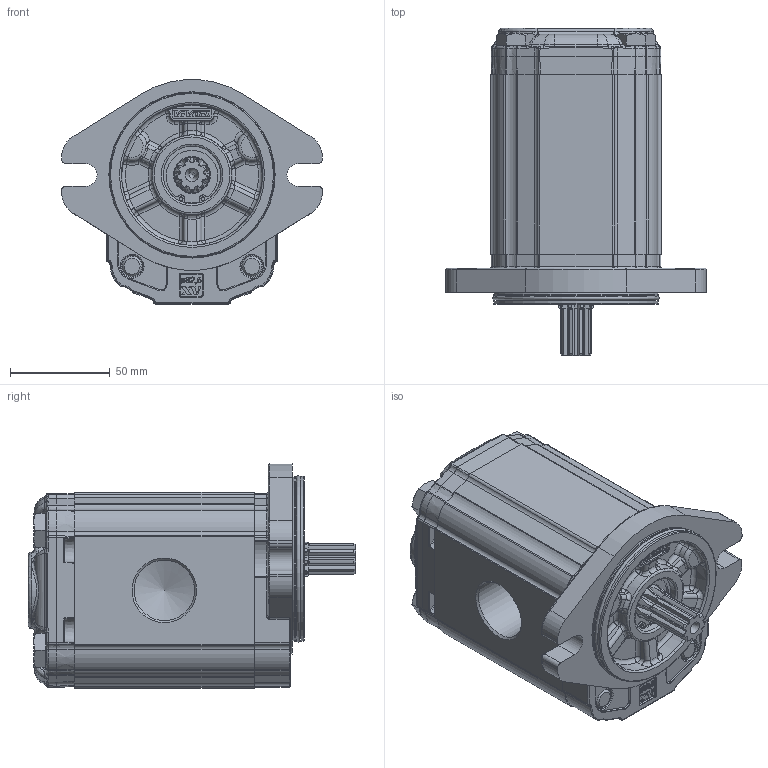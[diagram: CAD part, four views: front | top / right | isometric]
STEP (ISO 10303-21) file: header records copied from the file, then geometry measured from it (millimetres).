
FILE_DESCRIPTION(/* description */ ('Unknown'),/* implementation_level */ '2;1');
FILE_NAME(/* name */ 'X2M5931IDDF',/* time_stamp */ '2021-04-26T12:03:55+02:00',/* author */ ('Unknown'),/* organization */ ('Unknown'),/* preprocessor_version */ 'ST-DEVELOPER v16.7',/* originating_system */ 'Solid Edge',/* authorisation */ 'Unknown');
FILE_SCHEMA (('CONFIG_CONTROL_DESIGN','AUTOMOTIVE_DESIGN {1 0 10303 214 3 1 1}'));
Products named in the file (5): X2M5931IDDF; X2M31; 2I; X2DDH90; XM219-F
Assembly tree (4 placements, depth 2):
  X2M5931IDDF
    X2M31
    2I
    X2DDH90
    XM219-F
Bounding box: 130.38 x 163.7 x 112.3 mm (x, y, z)
Volume: 983837.2 mm3; surface area: 118445.5 mm2
Topology: 4 solids, 5 shells, 2113 faces, 5215 edges, 3176 vertices
Faces by surface type: cylinder 623, plane 573, bspline 513, torus 262, cone 104, sphere 38
Full cylindrical faces by diameter (mm): 2 x2, 10 x4, 10.5 x4, 11 x2, 16 x4, 17.42 x1, 18 x1, 20.595 x1, 23.332 x1, 25.834 x1, 28.5 x1, 28.56 x1, 28.57 x1, 28.8 x1, 30.291 x2, 30.4 x1, 79.6 x2, 82.5 x2
Entity records: 87672 total; most frequent: CARTESIAN_POINT 28215, ORIENTED_EDGE 10082, DIRECTION 8460, EDGE_CURVE 5041, AXIS2_PLACEMENT_3D 3219, VERTEX_POINT 3114, FACE_BOUND 2297, EDGE_LOOP 2294
